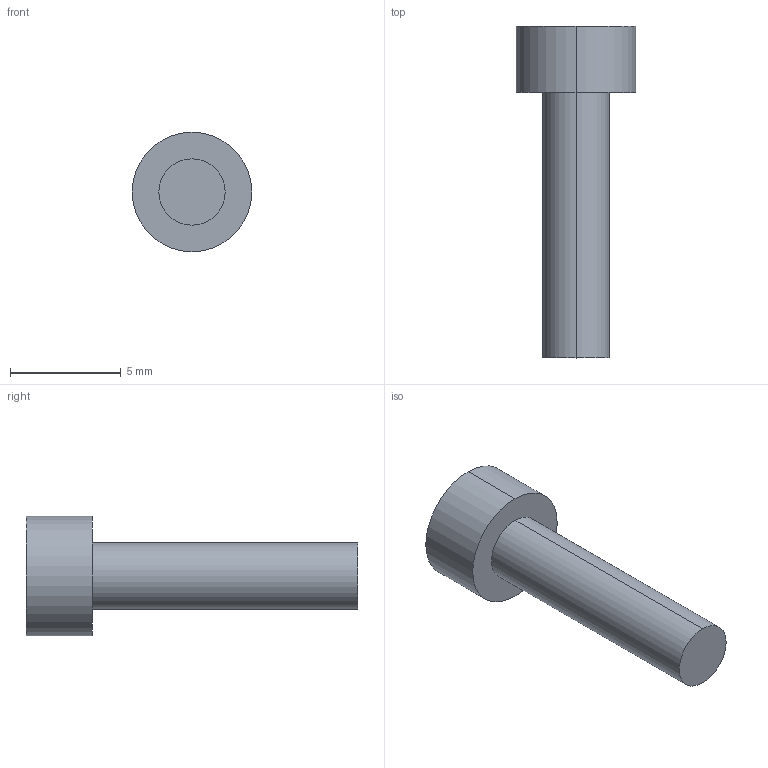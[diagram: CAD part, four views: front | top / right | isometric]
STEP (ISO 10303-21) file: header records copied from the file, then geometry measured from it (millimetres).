
FILE_DESCRIPTION (( 'STEP AP214' ), '1' );
FILE_NAME ('M3_imbus_12mm.STEP', '2026-02-22T20:19:24', ( '' ), ( '' ), 'SwSTEP 2.0', 'SolidWorks 2024', '' );
FILE_SCHEMA (( 'AUTOMOTIVE_DESIGN' ));
Length unit declared in the file: millimetre
Products named in the file (1): M3_imbus_12mm
Bounding box: 5.4 x 15 x 5.4 mm (x, y, z)
Volume: 134 mm3; surface area: 235.8 mm2
Topology: 1 solids, 1 shells, 14 faces, 30 edges, 20 vertices
Faces by surface type: plane 10, cylinder 4
Entity records: 405 total; most frequent: DIRECTION 68, CARTESIAN_POINT 65, ORIENTED_EDGE 60, EDGE_CURVE 30, AXIS2_PLACEMENT_3D 23, LINE 22, VECTOR 22, VERTEX_POINT 20
